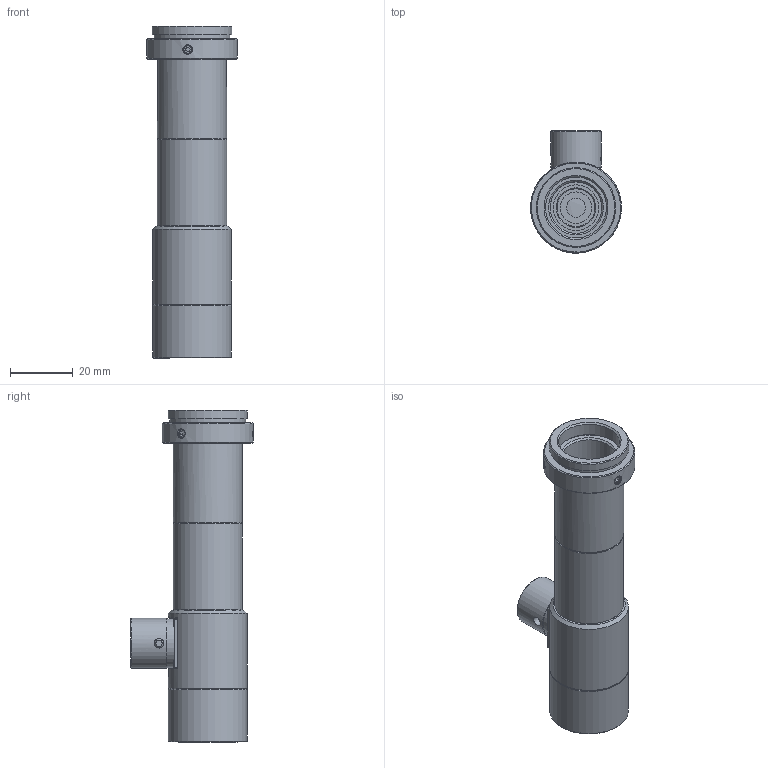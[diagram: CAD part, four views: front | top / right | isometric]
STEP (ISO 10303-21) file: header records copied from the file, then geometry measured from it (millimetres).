
FILE_DESCRIPTION(('STEP AP214'),'1');
FILE_NAME('RTK-4F-M65.stp','2026-07-31T08:57:02',(' '),(' '),'Spatial InterOp 3D',' ',' ');
FILE_SCHEMA(('AUTOMOTIVE_DESIGN { 1 0 10303 214 1 1 1 1 }'));
Length unit declared in the file: metre
Products named in the file (2): RTK-4F-M65; Component1
Assembly tree (1 placements, depth 2):
  RTK-4F-M65
    Component1
Bounding box: 28.91 x 39 x 105.63 mm (x, y, z)
Volume: 26191.1 mm3; surface area: 20298.4 mm2
Topology: 1 solids, 12 shells, 367 faces, 872 edges, 572 vertices
Faces by surface type: plane 185, cylinder 87, cone 78, torus 8, sphere 6, bspline 3
Full cylindrical faces by diameter (mm): 1.7 x8, 1.8 x4, 2.5 x6, 3 x3, 6 x1, 6.5 x1, 8 x1, 9 x1, 10 x1, 11 x1, 12 x2, 12.8 x1, 14 x1, 14.2 x1, 14.5 x1, 14.8 x1, 15 x1, 15.5 x1, 16 x1, 16.4 x2, 17.2 x2, 17.4 x3, 18 x1, 18.2 x2, 18.5 x1, 18.8 x1, 19 x4, 19.4 x1, 20 x2, 20.2 x2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
Entity records: 13486 total; most frequent: CARTESIAN_POINT 2838, DIRECTION 1648, ORIENTED_EDGE 1314, AXIS2_PLACEMENT_3D 704, EDGE_CURVE 657, EDGE_LOOP 583, VERTEX_POINT 505, FACE_OUTER_BOUND 452
